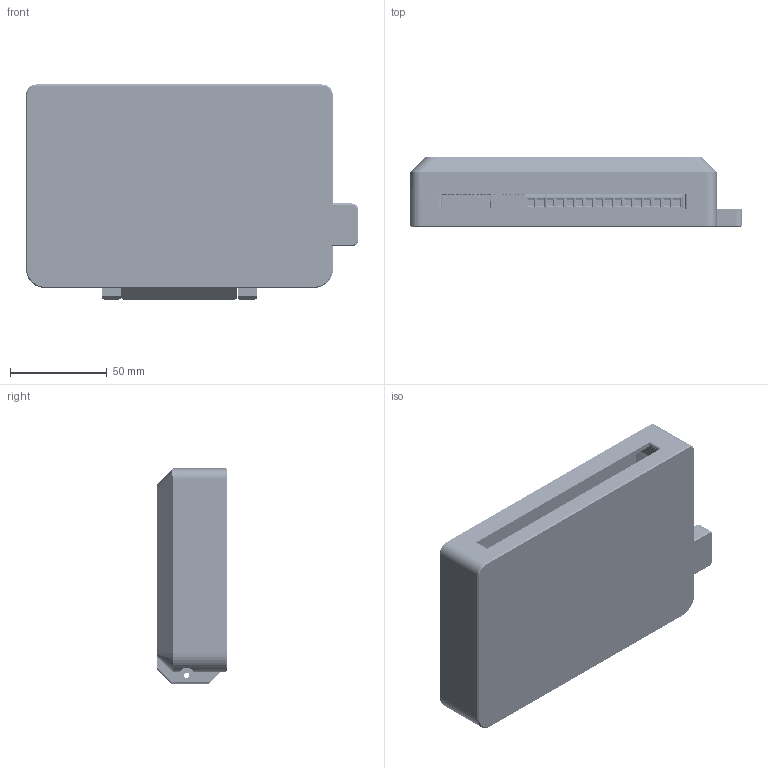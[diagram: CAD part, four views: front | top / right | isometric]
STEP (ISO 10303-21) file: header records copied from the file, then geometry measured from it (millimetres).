
FILE_DESCRIPTION(('HOOPS Exchange Step'),'2;1');
FILE_NAME('/Users/rileymahr/Library/Containers/com.shapr3d.shapr/Data/tmp/export/temp_export','2026-11-22T11:30:10-06:00',('rileymahr'),('Shapr3D Limited'),'HOOPS Exchange 2026.7','Shapr3D','Authorized');
FILE_SCHEMA( ('AP242_MANAGED_MODEL_BASED_3D_ENGINEERING_MIM_LF {1 0 10303 442 1 1 4}') );
Length unit declared in the file: millimetre
Products named in the file (770): Body:1; Impeller:1; 4010; Lid With Fan; Board~Rvj7:1; BottomSilkscreen~Rvj7:1; BottomSilkscreen~Rvj7 (1):1; BottomSilkscreen~Rvj7 (2):1; BottomSilkscreen~Rvj7 (3):1; BottomSilkscreen~Rvj7 (4):1; BottomSilkscreen~Rvj7 (5):1; BottomSilkscreen~Rvj7 (6):1; BottomSilkscreen~Rvj7 (7):1; BottomSilkscreen~Rvj7 (8):1; BottomSilkscreen~Rvj7 (9):1; BottomSilkscreen~Rvj7 (10):1; BottomSilkscreen~Rvj7 (11):1; BottomSilkscreen~Rvj7 (12):1; BottomSilkscreen~Rvj7 (13):1; BottomSilkscreen~Rvj7 (14):1; BottomSilkscreen~Rvj7 (15):1; BottomSilkscreen~Rvj7 (16):1; BottomSilkscreen~Rvj7 (17):1; BottomSilkscreen~Rvj7 (18):1; BottomSilkscreen~Rvj7 (19):1; BottomSilkscreen~Rvj7 (20):1; BottomSilkscreen~Rvj7 (21):1; BottomSilkscreen~Rvj7 (22):1; BottomSilkscreen~Rvj7 (23):1; BottomSilkscreen~Rvj7 (24):1; BottomSilkscreen~Rvj7 (25):1; BottomSilkscreen~Rvj7 (26):1; BottomSilkscreen~Rvj7 (27):1; BottomSilkscreen~Rvj7 (28):1; BottomSilkscreen~Rvj7 (29):1; BottomSilkscreen~Rvj7 (30):1; BottomSilkscreen~Rvj7 (31):1; BottomSilkscreen~Rvj7 (32):1; BottomSilkscreen~Rvj7 (33):1; BottomSilkscreen~Rvj7 (34):1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
Assembly tree (769 placements, depth 6):
  root
    CAD
      Hydra Case
        Lid With Fan
          4010
            Body:1
            Impeller:1
        Hydra_r1.2:1
          Board~Rvj7:1
          BottomSilkscreen~Rvj7 (624):1
            BottomSilkscreen~Rvj7:1
            BottomSilkscreen~Rvj7 (1):1
            BottomSilkscreen~Rvj7 (2):1
            BottomSilkscreen~Rvj7 (3):1
            BottomSilkscreen~Rvj7 (4):1
            BottomSilkscreen~Rvj7 (5):1
            BottomSilkscreen~Rvj7 (6):1
            BottomSilkscreen~Rvj7 (7):1
            BottomSilkscreen~Rvj7 (8):1
            BottomSilkscreen~Rvj7 (9):1
            BottomSilkscreen~Rvj7 (10):1
            BottomSilkscreen~Rvj7 (11):1
            BottomSilkscreen~Rvj7 (12):1
            BottomSilkscreen~Rvj7 (13):1
            BottomSilkscreen~Rvj7 (14):1
            BottomSilkscreen~Rvj7 (15):1
            BottomSilkscreen~Rvj7 (16):1
            BottomSilkscreen~Rvj7 (17):1
            BottomSilkscreen~Rvj7 (18):1
            BottomSilkscreen~Rvj7 (19):1
            BottomSilkscreen~Rvj7 (20):1
            BottomSilkscreen~Rvj7 (21):1
            BottomSilkscreen~Rvj7 (22):1
            BottomSilkscreen~Rvj7 (23):1
            BottomSilkscreen~Rvj7 (24):1
            BottomSilkscreen~Rvj7 (25):1
            BottomSilkscreen~Rvj7 (26):1
            BottomSilkscreen~Rvj7 (27):1
            BottomSilkscreen~Rvj7 (28):1
            BottomSilkscreen~Rvj7 (29):1
            BottomSilkscreen~Rvj7 (30):1
            BottomSilkscreen~Rvj7 (31):1
            BottomSilkscreen~Rvj7 (32):1
            BottomSilkscreen~Rvj7 (33):1
            BottomSilkscreen~Rvj7 (34):1
            BottomSilkscreen~Rvj7 (35):1
            BottomSilkscreen~Rvj7 (36):1
            BottomSilkscreen~Rvj7 (37):1
            BottomSilkscreen~Rvj7 (38):1
            BottomSilkscreen~Rvj7 (39):1
            BottomSilkscreen~Rvj7 (40):1
            BottomSilkscreen~Rvj7 (41):1
            BottomSilkscreen~Rvj7 (42):1
            BottomSilkscreen~Rvj7 (43):1
            BottomSilkscreen~Rvj7 (44):1
            BottomSilkscreen~Rvj7 (45):1
            BottomSilkscreen~Rvj7 (46):1
            BottomSilkscreen~Rvj7 (47):1
            BottomSilkscreen~Rvj7 (48):1
            BottomSilkscreen~Rvj7 (49):1
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Bounding box: 171.4 x 36 x 111 mm (x, y, z)
Volume: 215574.2 mm3; surface area: 207949.9 mm2
Topology: 426 solids, 1049 shells, 26703 faces, 124628 edges, 100693 vertices
Faces by surface type: plane 18713, bspline 6174, cylinder 1569, cone 113, torus 82, sphere 52
Full cylindrical faces by diameter (mm): 0.4 x2, 0.5 x4, 0.65 x2, 0.7 x8, 0.9 x75, 0.969 x1, 1 x20, 1.02 x51, 1.2 x4, 1.5 x18, 1.692 x2, 2.5 x2, 2.7 x4, 2.8 x1, 3.2 x26, 3.3 x4, 3.4 x4, 3.5 x18, 5.8 x4, 6 x4, 6.05 x12, 38 x2
Entity records: 1333663 total; most frequent: CARTESIAN_POINT 359360, ORIENTED_EDGE 196653, DIRECTION 158500, EDGE_CURVE 124592, VECTOR 106874, LINE 106874, VERTEX_POINT 100693, EDGE_LOOP 29123
